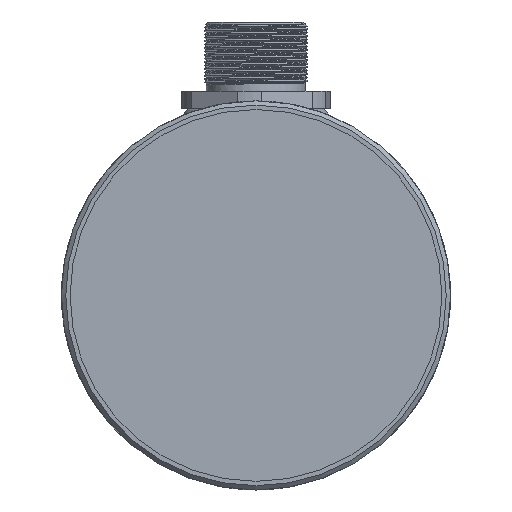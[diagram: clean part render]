
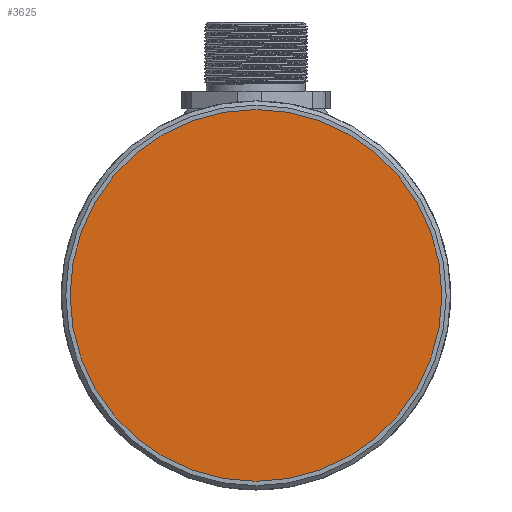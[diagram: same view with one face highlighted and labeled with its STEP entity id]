
A CAD part, left-side view. The second image highlights one B-rep face of the part: STEP entity #3625.
In plain terms, the highlighted planar face has unit normal (-1, 0, 0).
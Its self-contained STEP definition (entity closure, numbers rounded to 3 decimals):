
#1160=PLANE('',#3873);
#1339=VERTEX_POINT('',#7938);
#1558=CIRCLE('',#3871,21.5);
#1799=EDGE_CURVE('',#1339,#1339,#1558,.T.);
#2383=ORIENTED_EDGE('',*,*,#1799,.T.);
#3102=EDGE_LOOP('',(#2383));
#3365=FACE_BOUND('',#3102,.T.);
#3625=ADVANCED_FACE('',(#3365),#1160,.T.);
#3871=AXIS2_PLACEMENT_3D('',#7937,#4262,#4263);
#3873=AXIS2_PLACEMENT_3D('',#7941,#4266,$);
#4262=DIRECTION('',(-1.,0.,0.));
#4263=DIRECTION('',(0.,0.,21.5));
#4266=DIRECTION('',(-1.,0.,0.));
#7937=CARTESIAN_POINT('',(1.,0.,0.));
#7938=CARTESIAN_POINT('',(1.,0.,21.5));
#7941=CARTESIAN_POINT('',(1.,0.,0.));
